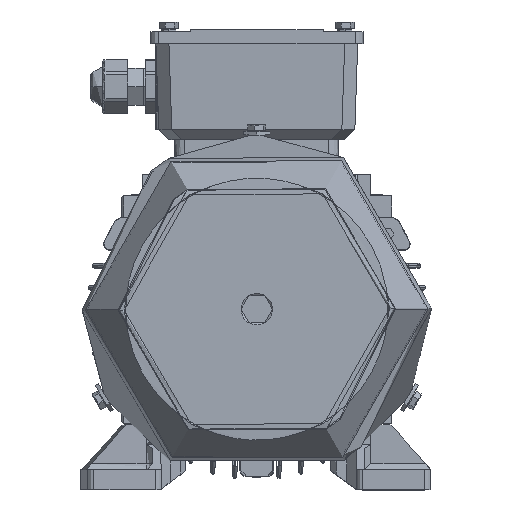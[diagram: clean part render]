
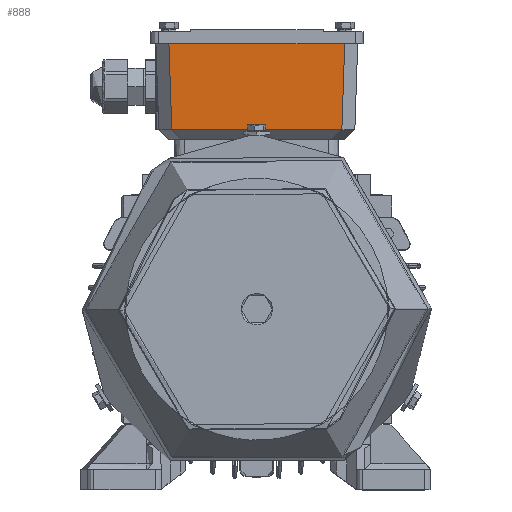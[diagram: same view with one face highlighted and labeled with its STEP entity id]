
A CAD part, top view. The second image highlights one B-rep face of the part: STEP entity #888.
In plain terms, the highlighted planar face has unit normal (0, 0.033, -0.999).
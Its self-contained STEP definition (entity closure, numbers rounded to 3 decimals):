
#879 = VECTOR ( 'NONE', #11487, 1000. ) ;
#888 = ADVANCED_FACE ( 'NONE', ( #66214 ), #69325, .T. ) ;
#2918 = EDGE_LOOP ( 'NONE', ( #63374, #66986, #10134, #19435 ) ) ;
#3593 = CARTESIAN_POINT ( 'NONE',  ( 66.151, 130.963, 30. ) ) ;
#9883 = LINE ( 'NONE', #44338, #51603 ) ;
#10134 = ORIENTED_EDGE ( 'NONE', *, *, #97077, .T. ) ;
#11452 = EDGE_CURVE ( 'NONE', #82482, #90002, #58119, .T. ) ;
#11487 = DIRECTION ( 'NONE',  ( 1., 0., 0. ) ) ;
#14337 = VERTEX_POINT ( 'NONE', #84464 ) ;
#19435 = ORIENTED_EDGE ( 'NONE', *, *, #71856, .T. ) ;
#21387 = CARTESIAN_POINT ( 'NONE',  ( -36.352, 85.963, 28.5 ) ) ;
#24716 = VECTOR ( 'NONE', #69669, 1000. ) ;
#32120 = LINE ( 'NONE', #77532, #24716 ) ;
#38142 = CARTESIAN_POINT ( 'NONE',  ( 66.151, 130.963, 30. ) ) ;
#44338 = CARTESIAN_POINT ( 'NONE',  ( 66.151, 85.963, 28.5 ) ) ;
#46039 = DIRECTION ( 'NONE',  ( 0., 0.999, 0.033 ) ) ;
#51603 = VECTOR ( 'NONE', #99231, 1000. ) ;
#58119 = LINE ( 'NONE', #21387, #74031 ) ;
#63374 = ORIENTED_EDGE ( 'NONE', *, *, #11452, .T. ) ;
#65884 = LINE ( 'NONE', #3593, #879 ) ;
#66214 = FACE_OUTER_BOUND ( 'NONE', #2918, .T. ) ;
#66986 = ORIENTED_EDGE ( 'NONE', *, *, #80106, .T. ) ;
#69325 = PLANE ( 'NONE',  #73510 ) ;
#69669 = DIRECTION ( 'NONE',  ( -0.033, -0.999, -0.033 ) ) ;
#71856 = EDGE_CURVE ( 'NONE', #14337, #82482, #9883, .T. ) ;
#73510 = AXIS2_PLACEMENT_3D ( 'NONE', #38142, #92997, #46039 ) ;
#74031 = VECTOR ( 'NONE', #76950, 1000. ) ;
#76950 = DIRECTION ( 'NONE',  ( -0.033, 0.999, 0.033 ) ) ;
#77532 = CARTESIAN_POINT ( 'NONE',  ( 50.173, 131.495, 30.018 ) ) ;
#78329 = CARTESIAN_POINT ( 'NONE',  ( 50.155, 130.963, 30. ) ) ;
#79920 = CARTESIAN_POINT ( 'NONE',  ( -36.352, 85.963, 28.5 ) ) ;
#80106 = EDGE_CURVE ( 'NONE', #90002, #80316, #65884, .T. ) ;
#80316 = VERTEX_POINT ( 'NONE', #78329 ) ;
#82482 = VERTEX_POINT ( 'NONE', #79920 ) ;
#84464 = CARTESIAN_POINT ( 'NONE',  ( 48.655, 85.963, 28.5 ) ) ;
#90002 = VERTEX_POINT ( 'NONE', #94040 ) ;
#92997 = DIRECTION ( 'NONE',  ( 0., 0.033, -0.999 ) ) ;
#94040 = CARTESIAN_POINT ( 'NONE',  ( -37.852, 130.963, 30. ) ) ;
#97077 = EDGE_CURVE ( 'NONE', #80316, #14337, #32120, .T. ) ;
#99231 = DIRECTION ( 'NONE',  ( -1., 0., 0. ) ) ;
